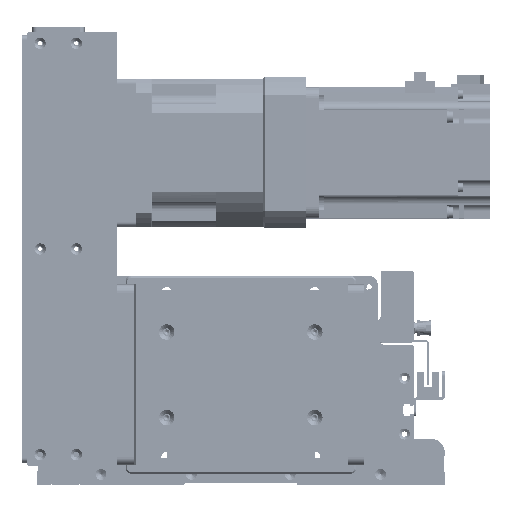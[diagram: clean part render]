
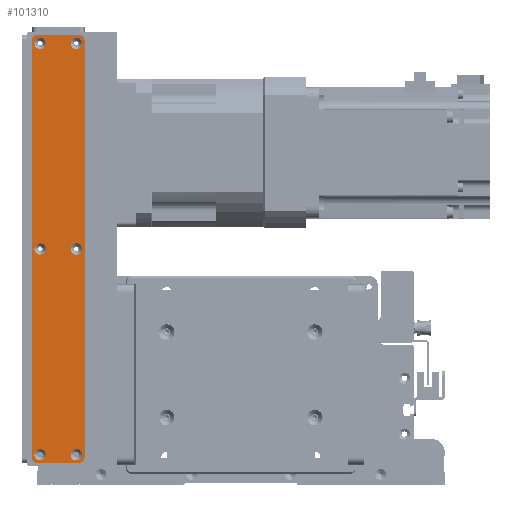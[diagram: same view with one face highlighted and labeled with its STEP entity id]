
A CAD part, front view. The second image highlights one B-rep face of the part: STEP entity #101310.
In plain terms, the highlighted planar face has unit normal (0, -1, 0).
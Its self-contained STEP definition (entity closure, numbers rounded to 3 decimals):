
#2443=FACE_BOUND('',#18634,.T.);
#2444=FACE_BOUND('',#18635,.T.);
#2445=FACE_BOUND('',#18636,.T.);
#2446=FACE_BOUND('',#18637,.T.);
#2447=FACE_BOUND('',#18638,.T.);
#2448=FACE_BOUND('',#18639,.T.);
#6203=PLANE('',#110077);
#12543=FACE_OUTER_BOUND('',#18633,.T.);
#18633=EDGE_LOOP('',(#95737,#95738,#95739,#95740,#95741,#95742,#95743,#95744));
#18634=EDGE_LOOP('',(#95745));
#18635=EDGE_LOOP('',(#95746));
#18636=EDGE_LOOP('',(#95747));
#18637=EDGE_LOOP('',(#95748));
#18638=EDGE_LOOP('',(#95749));
#18639=EDGE_LOOP('',(#95750));
#29788=LINE('',#170679,#40936);
#29789=LINE('',#170683,#40937);
#29790=LINE('',#170687,#40938);
#29791=LINE('',#170690,#40939);
#40936=VECTOR('',#137253,10.);
#40937=VECTOR('',#137256,10.);
#40938=VECTOR('',#137259,10.);
#40939=VECTOR('',#137262,10.);
#43497=CIRCLE('',#110045,3.45);
#43500=CIRCLE('',#110050,3.45);
#43503=CIRCLE('',#110055,3.45);
#43506=CIRCLE('',#110060,3.45);
#43509=CIRCLE('',#110065,3.45);
#43512=CIRCLE('',#110070,3.45);
#43515=CIRCLE('',#110075,3.);
#43517=CIRCLE('',#110078,3.);
#43518=CIRCLE('',#110079,3.);
#43519=CIRCLE('',#110080,3.);
#52991=VERTEX_POINT('',#170609);
#52994=VERTEX_POINT('',#170619);
#52997=VERTEX_POINT('',#170629);
#53000=VERTEX_POINT('',#170639);
#53003=VERTEX_POINT('',#170649);
#53006=VERTEX_POINT('',#170659);
#53009=VERTEX_POINT('',#170669);
#53010=VERTEX_POINT('',#170670);
#53013=VERTEX_POINT('',#170678);
#53014=VERTEX_POINT('',#170680);
#53015=VERTEX_POINT('',#170682);
#53016=VERTEX_POINT('',#170684);
#53017=VERTEX_POINT('',#170686);
#53018=VERTEX_POINT('',#170688);
#67227=EDGE_CURVE('',#52991,#52991,#43497,.T.);
#67232=EDGE_CURVE('',#52994,#52994,#43500,.T.);
#67237=EDGE_CURVE('',#52997,#52997,#43503,.T.);
#67242=EDGE_CURVE('',#53000,#53000,#43506,.T.);
#67247=EDGE_CURVE('',#53003,#53003,#43509,.T.);
#67252=EDGE_CURVE('',#53006,#53006,#43512,.T.);
#67257=EDGE_CURVE('',#53009,#53010,#43515,.T.);
#67261=EDGE_CURVE('',#53009,#53013,#29788,.T.);
#67262=EDGE_CURVE('',#53014,#53013,#43517,.T.);
#67263=EDGE_CURVE('',#53014,#53015,#29789,.T.);
#67264=EDGE_CURVE('',#53016,#53015,#43518,.T.);
#67265=EDGE_CURVE('',#53016,#53017,#29790,.T.);
#67266=EDGE_CURVE('',#53018,#53017,#43519,.T.);
#67267=EDGE_CURVE('',#53018,#53010,#29791,.T.);
#95737=ORIENTED_EDGE('',*,*,#67257,.F.);
#95738=ORIENTED_EDGE('',*,*,#67261,.T.);
#95739=ORIENTED_EDGE('',*,*,#67262,.F.);
#95740=ORIENTED_EDGE('',*,*,#67263,.T.);
#95741=ORIENTED_EDGE('',*,*,#67264,.F.);
#95742=ORIENTED_EDGE('',*,*,#67265,.T.);
#95743=ORIENTED_EDGE('',*,*,#67266,.F.);
#95744=ORIENTED_EDGE('',*,*,#67267,.T.);
#95745=ORIENTED_EDGE('',*,*,#67227,.T.);
#95746=ORIENTED_EDGE('',*,*,#67232,.T.);
#95747=ORIENTED_EDGE('',*,*,#67237,.T.);
#95748=ORIENTED_EDGE('',*,*,#67242,.T.);
#95749=ORIENTED_EDGE('',*,*,#67247,.T.);
#95750=ORIENTED_EDGE('',*,*,#67252,.T.);
#101310=ADVANCED_FACE('',(#12543,#2443,#2444,#2445,#2446,#2447,#2448),#6203,
 .T.);
#110045=AXIS2_PLACEMENT_3D('',#170610,#137173,#137174);
#110050=AXIS2_PLACEMENT_3D('',#170620,#137185,#137186);
#110055=AXIS2_PLACEMENT_3D('',#170630,#137197,#137198);
#110060=AXIS2_PLACEMENT_3D('',#170640,#137209,#137210);
#110065=AXIS2_PLACEMENT_3D('',#170650,#137221,#137222);
#110070=AXIS2_PLACEMENT_3D('',#170660,#137233,#137234);
#110075=AXIS2_PLACEMENT_3D('',#170671,#137245,#137246);
#110077=AXIS2_PLACEMENT_3D('',#170677,#137251,#137252);
#110078=AXIS2_PLACEMENT_3D('',#170681,#137254,#137255);
#110079=AXIS2_PLACEMENT_3D('',#170685,#137257,#137258);
#110080=AXIS2_PLACEMENT_3D('',#170689,#137260,#137261);
#137173=DIRECTION('center_axis',(0.,1.,0.));
#137174=DIRECTION('ref_axis',(1.,0.,0.));
#137185=DIRECTION('center_axis',(0.,1.,0.));
#137186=DIRECTION('ref_axis',(1.,0.,0.));
#137197=DIRECTION('center_axis',(0.,1.,0.));
#137198=DIRECTION('ref_axis',(1.,0.,0.));
#137209=DIRECTION('center_axis',(0.,1.,0.));
#137210=DIRECTION('ref_axis',(1.,0.,0.));
#137221=DIRECTION('center_axis',(0.,1.,0.));
#137222=DIRECTION('ref_axis',(1.,0.,0.));
#137233=DIRECTION('center_axis',(0.,1.,0.));
#137234=DIRECTION('ref_axis',(1.,0.,0.));
#137245=DIRECTION('center_axis',(0.,1.,0.));
#137246=DIRECTION('ref_axis',(-0.707,0.,0.707));
#137251=DIRECTION('center_axis',(0.,-1.,0.));
#137252=DIRECTION('ref_axis',(0.,0.,-1.));
#137253=DIRECTION('',(0.,0.,-1.));
#137254=DIRECTION('center_axis',(0.,1.,0.));
#137255=DIRECTION('ref_axis',(-0.707,0.,-0.707));
#137256=DIRECTION('',(1.,0.,0.));
#137257=DIRECTION('center_axis',(0.,1.,0.));
#137258=DIRECTION('ref_axis',(0.707,0.,-0.707));
#137259=DIRECTION('',(0.,0.,1.));
#137260=DIRECTION('center_axis',(0.,1.,0.));
#137261=DIRECTION('ref_axis',(0.707,0.,0.707));
#137262=DIRECTION('',(-1.,0.,0.));
#170609=CARTESIAN_POINT('',(121.55,-1.5,11.));
#170610=CARTESIAN_POINT('Origin',(125.,-1.5,11.));
#170619=CARTESIAN_POINT('',(-3.45,-1.5,11.));
#170620=CARTESIAN_POINT('Origin',(0.,-1.5,11.));
#170629=CARTESIAN_POINT('',(-128.45,-1.5,11.));
#170630=CARTESIAN_POINT('Origin',(-125.,-1.5,11.));
#170639=CARTESIAN_POINT('',(-128.45,-1.5,-11.));
#170640=CARTESIAN_POINT('Origin',(-125.,-1.5,-11.));
#170649=CARTESIAN_POINT('',(-3.45,-1.5,-11.));
#170650=CARTESIAN_POINT('Origin',(0.,-1.5,-11.));
#170659=CARTESIAN_POINT('',(121.55,-1.5,-11.));
#170660=CARTESIAN_POINT('Origin',(125.,-1.5,-11.));
#170669=CARTESIAN_POINT('',(-130.,-1.5,13.));
#170670=CARTESIAN_POINT('',(-127.,-1.5,16.));
#170671=CARTESIAN_POINT('Origin',(-127.,-1.5,13.));
#170677=CARTESIAN_POINT('Origin',(0.,-1.5,0.));
#170678=CARTESIAN_POINT('',(-130.,-1.5,-13.));
#170679=CARTESIAN_POINT('',(-130.,-1.5,16.));
#170680=CARTESIAN_POINT('',(-127.,-1.5,-16.));
#170681=CARTESIAN_POINT('Origin',(-127.,-1.5,-13.));
#170682=CARTESIAN_POINT('',(127.,-1.5,-16.));
#170683=CARTESIAN_POINT('',(-130.,-1.5,-16.));
#170684=CARTESIAN_POINT('',(130.,-1.5,-13.));
#170685=CARTESIAN_POINT('Origin',(127.,-1.5,-13.));
#170686=CARTESIAN_POINT('',(130.,-1.5,13.));
#170687=CARTESIAN_POINT('',(130.,-1.5,-16.));
#170688=CARTESIAN_POINT('',(127.,-1.5,16.));
#170689=CARTESIAN_POINT('Origin',(127.,-1.5,13.));
#170690=CARTESIAN_POINT('',(130.,-1.5,16.));
